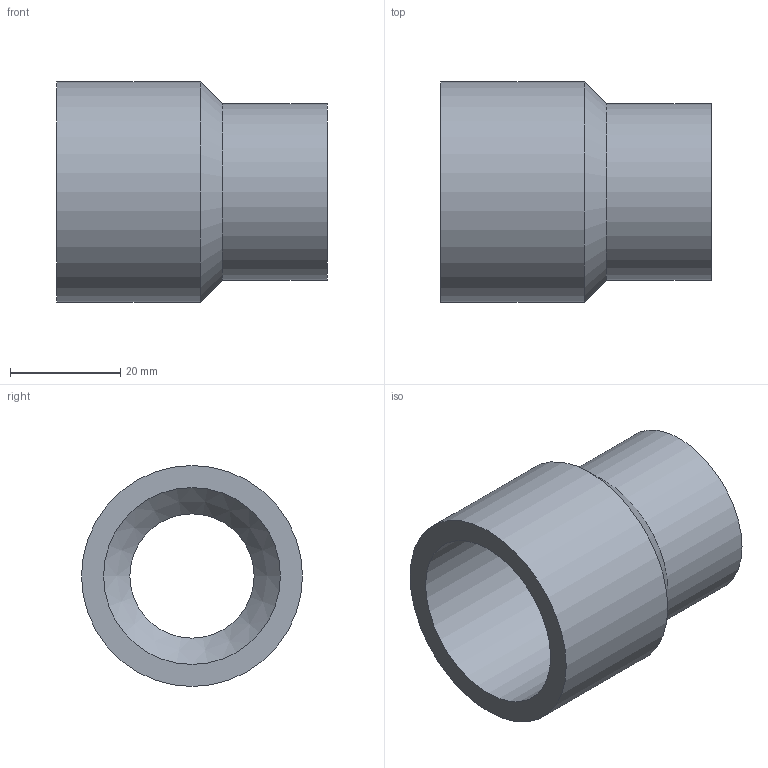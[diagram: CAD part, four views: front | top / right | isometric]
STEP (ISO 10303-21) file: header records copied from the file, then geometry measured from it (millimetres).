
FILE_DESCRIPTION(/* description */ ('PLASSON REDUCING SOCKET M.F.40(32)25 CEMENTED'),/* implementation_level */ '2;1');
FILE_NAME(/* name */ 'C:\Dropbox\KIMPROJECTS-Inventor\99-16-3568-Processing\PVC Catalog 2017\050200\050200040025.ipt.stp',/* time_stamp */ '2017-12-07T15:52:27+02:00',/* author */ ('KIM'),/* organization */ (''),/* preprocessor_version */ 'ST-DEVELOPER v15.6',/* originating_system */ 'Autodesk Inventor 2015',/* authorisation */ '');
FILE_SCHEMA (('AUTOMOTIVE_DESIGN { 1 0 10303 214 3 1 1 }'));
Length unit declared in the file: millimetre
Products named in the file (1): 050200040025
Bounding box: 49 x 40 x 40 mm (x, y, z)
Volume: 20117.7 mm3; surface area: 11244.6 mm2
Topology: 1 solids, 1 shells, 10 faces, 17 edges, 10 vertices
Faces by surface type: cylinder 5, plane 3, cone 2
Full cylindrical faces by diameter (mm): 22.5 x1, 25 x1, 32 x2, 40 x1
Entity records: 232 total; most frequent: DIRECTION 42, CARTESIAN_POINT 31, AXIS2_PLACEMENT_3D 21, EDGE_LOOP 20, ORIENTED_EDGE 20, FACE_BOUND 10, FACE_OUTER_BOUND 10, CIRCLE 10
